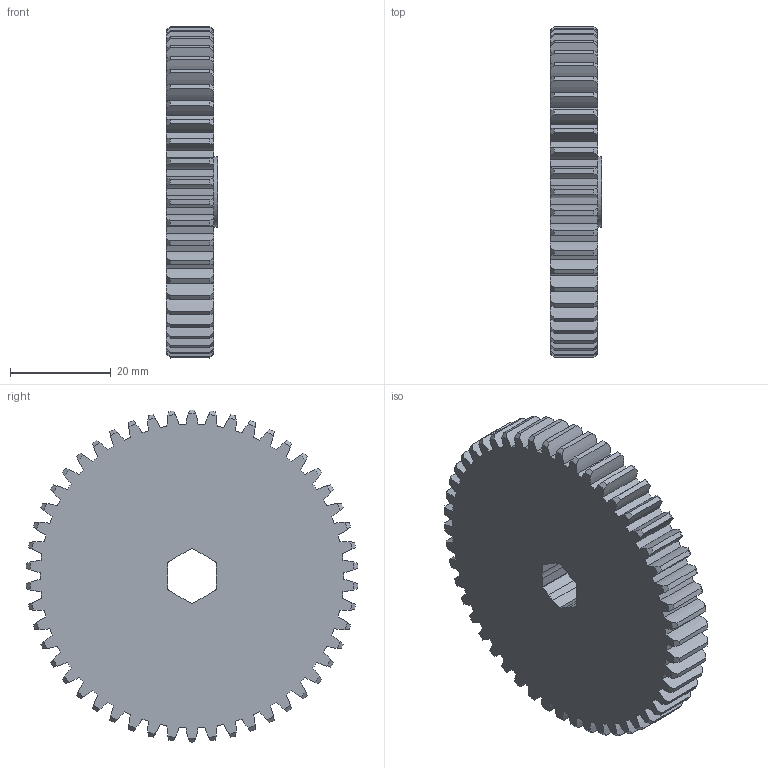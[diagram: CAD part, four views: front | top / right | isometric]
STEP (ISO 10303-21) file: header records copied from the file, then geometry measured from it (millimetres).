
FILE_DESCRIPTION(/* description */ (''),/* implementation_level */ '2;1');
FILE_NAME(/* name */ 'Tough Box large cluster gear .step',/* time_stamp */ '2022-12-29T16:31:36-08:00',/* author */ (''),/* organization */ (''),/* preprocessor_version */ 'ST-DEVELOPER v19.2',/* originating_system */ 'Autodesk Translation Framework v11.17.0.187',/* authorisation */ '');
FILE_SCHEMA (('AUTOMOTIVE_DESIGN { 1 0 10303 214 3 1 1 }'));
Length unit declared in the file: inch
Products named in the file (1): Tough Box large cluster gear
Bounding box: 10.16 x 65.97 x 66.04 mm (x, y, z)
Volume: 28608.4 mm3; surface area: 10250.2 mm2
Topology: 1 solids, 1 shells, 328 faces, 975 edges, 650 vertices
Faces by surface type: cylinder 213, cone 100, plane 15
Full cylindrical faces by diameter (mm): 13.97 x1
Entity records: 11531 total; most frequent: CARTESIAN_POINT 2554, DIRECTION 1959, ORIENTED_EDGE 1950, EDGE_CURVE 975, AXIS2_PLACEMENT_3D 855, VERTEX_POINT 650, CIRCLE 526, EDGE_LOOP 331
